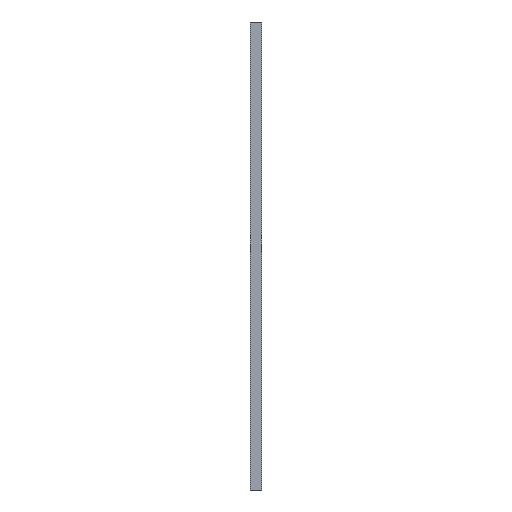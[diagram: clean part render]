
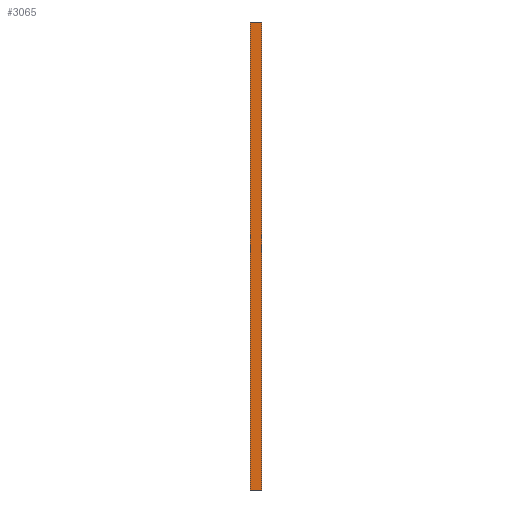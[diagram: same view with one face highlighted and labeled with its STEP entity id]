
A CAD part, left-side view. The second image highlights one B-rep face of the part: STEP entity #3065.
In plain terms, the highlighted planar face has unit normal (-1, 0, 0).
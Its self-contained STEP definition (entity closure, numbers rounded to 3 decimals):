
#444 = LINE ( 'NONE', #864, #4400 ) ;
#548 = ORIENTED_EDGE ( 'NONE', *, *, #4891, .F. ) ;
#652 = DIRECTION ( 'NONE',  ( 0., -1., 0. ) ) ;
#864 = CARTESIAN_POINT ( 'NONE',  ( 0., 0., -1500. ) ) ;
#1336 = ORIENTED_EDGE ( 'NONE', *, *, #7782, .T. ) ;
#2124 = CARTESIAN_POINT ( 'NONE',  ( 0., 0., 1500. ) ) ;
#2382 = VERTEX_POINT ( 'NONE', #4464 ) ;
#2448 = VERTEX_POINT ( 'NONE', #9330 ) ;
#2774 = EDGE_CURVE ( 'NONE', #2448, #2382, #8314, .T. ) ;
#3065 = ADVANCED_FACE ( 'NONE', ( #9721 ), #8353, .F. ) ;
#3755 = CARTESIAN_POINT ( 'NONE',  ( 0., 72., -1500. ) ) ;
#3955 = DIRECTION ( 'NONE',  ( 0., -1., 0. ) ) ;
#4063 = CARTESIAN_POINT ( 'NONE',  ( 0., 0., -1500. ) ) ;
#4214 = EDGE_LOOP ( 'NONE', ( #5354, #548, #6589, #1336 ) ) ;
#4341 = DIRECTION ( 'NONE',  ( 0., 0., -1. ) ) ;
#4400 = VECTOR ( 'NONE', #3955, 1000. ) ;
#4464 = CARTESIAN_POINT ( 'NONE',  ( 0., 0., 1500. ) ) ;
#4891 = EDGE_CURVE ( 'NONE', #2382, #7635, #5639, .T. ) ;
#5313 = EDGE_CURVE ( 'NONE', #9051, #7635, #444, .T. ) ;
#5354 = ORIENTED_EDGE ( 'NONE', *, *, #5313, .T. ) ;
#5639 = LINE ( 'NONE', #8739, #7067 ) ;
#6589 = ORIENTED_EDGE ( 'NONE', *, *, #2774, .F. ) ;
#6639 = DIRECTION ( 'NONE',  ( 0., 0., -1. ) ) ;
#7067 = VECTOR ( 'NONE', #8025, 1000. ) ;
#7199 = AXIS2_PLACEMENT_3D ( 'NONE', #9007, #8302, #4341 ) ;
#7402 = LINE ( 'NONE', #9788, #9716 ) ;
#7635 = VERTEX_POINT ( 'NONE', #4063 ) ;
#7782 = EDGE_CURVE ( 'NONE', #2448, #9051, #7402, .T. ) ;
#8025 = DIRECTION ( 'NONE',  ( 0., 0., -1. ) ) ;
#8166 = VECTOR ( 'NONE', #652, 1000. ) ;
#8302 = DIRECTION ( 'NONE',  ( 1., 0., 0. ) ) ;
#8314 = LINE ( 'NONE', #2124, #8166 ) ;
#8353 = PLANE ( 'NONE',  #7199 ) ;
#8739 = CARTESIAN_POINT ( 'NONE',  ( 0., 0., 1500. ) ) ;
#9007 = CARTESIAN_POINT ( 'NONE',  ( 0., 0., 1500. ) ) ;
#9051 = VERTEX_POINT ( 'NONE', #3755 ) ;
#9330 = CARTESIAN_POINT ( 'NONE',  ( 0., 72., 1500. ) ) ;
#9716 = VECTOR ( 'NONE', #6639, 1000. ) ;
#9721 = FACE_OUTER_BOUND ( 'NONE', #4214, .T. ) ;
#9788 = CARTESIAN_POINT ( 'NONE',  ( 0., 72., 1500. ) ) ;
